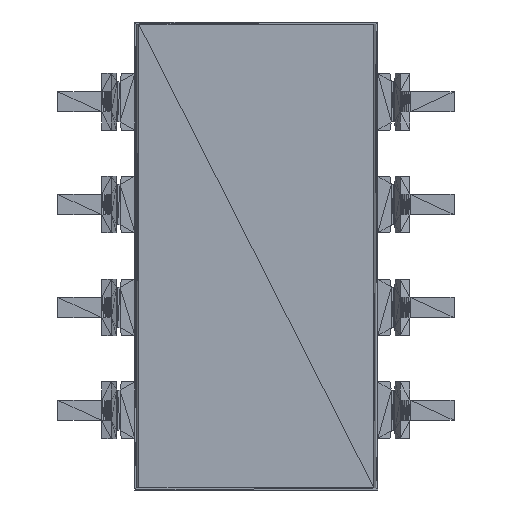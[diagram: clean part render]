
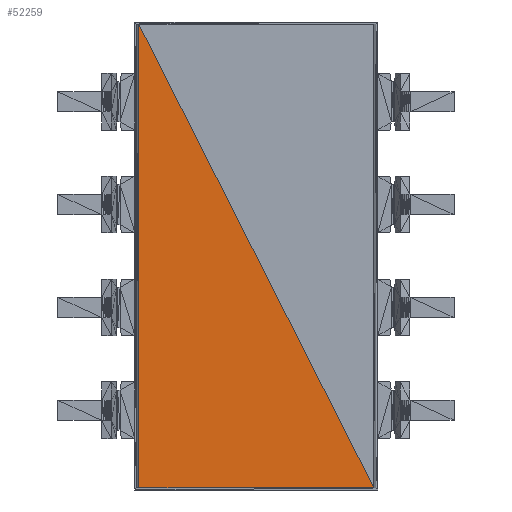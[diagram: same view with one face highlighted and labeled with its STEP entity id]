
A CAD part, front view. The second image highlights one B-rep face of the part: STEP entity #52259.
In plain terms, the highlighted planar face has unit normal (0, -1, 0).
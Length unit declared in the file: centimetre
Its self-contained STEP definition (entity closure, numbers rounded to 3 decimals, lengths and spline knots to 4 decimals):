
#1443=DIRECTION('',(0.,0.,-1.));
#2917=DIRECTION('',(-0.452,0.,0.892));
#2918=DIRECTION('',(-1.,0.,0.));
#4295=VECTOR('',#1443,1.);
#5769=VECTOR('',#2917,1.);
#5770=VECTOR('',#2918,1.);
#6143=CARTESIAN_POINT('',(0.8007,-0.495,0.513));
#6146=CARTESIAN_POINT('',(0.2207,-0.495,1.659));
#6148=CARTESIAN_POINT('',(0.2207,-0.495,0.513));
#8022=VERTEX_POINT('',#6143);
#8025=VERTEX_POINT('',#6146);
#8027=VERTEX_POINT('',#6148);
#11677=LINE('',#6143,#5770);
#11796=LINE('',#6146,#4295);
#11908=LINE('',#6143,#5769);
#17295=EDGE_CURVE('',#8022,#8027,#11677,.T.);
#17414=EDGE_CURVE('',#8025,#8027,#11796,.T.);
#17526=EDGE_CURVE('',#8022,#8025,#11908,.T.);
#23032=ORIENTED_EDGE('',*,*,#17414,.T.);
#23144=ORIENTED_EDGE('',*,*,#17526,.T.);
#28531=ORIENTED_EDGE('',*,*,#17295,.F.);
#33529=EDGE_LOOP('',(#23144,#23032,#28531));
#37275=FACE_OUTER_BOUND('',#33529,.T.);
#42543=DIRECTION('',(0.,-1.,0.));
#42544=AXIS2_PLACEMENT_3D('',#6143,#42543,#2917);
#48513=PLANE('',#42544);
#52259=ADVANCED_FACE('',(#37275),#48513,.T.);
